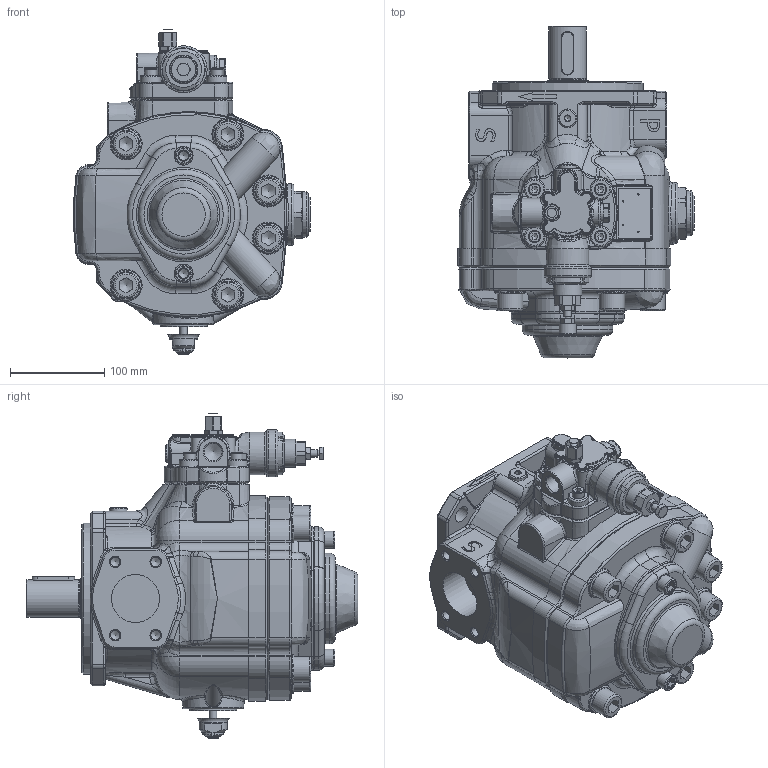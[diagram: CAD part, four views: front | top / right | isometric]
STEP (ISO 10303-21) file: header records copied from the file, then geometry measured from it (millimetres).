
FILE_DESCRIPTION(/* description */ (''),/* implementation_level */ '2;1');
FILE_NAME(/* name */ 'W:\Tecnico\Archivio\Dimensioni Pompe\3D Export\PHP\01 PHP 3 FHRMA PCS006.stp',/* time_stamp */ '2020-08-31T10:22:16+02:00',/* author */ ('marcop'),/* organization */ (''),/* preprocessor_version */ 'ST-DEVELOPER v17',/* originating_system */ 'Autodesk Inventor 2018',/* authorisation */ '');
FILE_SCHEMA (('AUTOMOTIVE_DESIGN { 1 0 10303 214 3 1 1 }'));
Products named in the file (1): PLP-PHP 3_Shrinkwrap_1
Bounding box: 251.18 x 352 x 345.1 mm (x, y, z)
Volume: 6981703 mm3; surface area: 575842.3 mm2
Topology: 2 solids, 2 shells, 2012 faces, 5009 edges, 3033 vertices
Faces by surface type: plane 546, cylinder 505, bspline 460, torus 261, cone 196, sphere 44
Full cylindrical faces by diameter (mm): 1.7 x4, 3 x3, 3.15 x1, 6.5 x1, 6.917 x1, 7 x1, 8 x2, 8.376 x4, 10.106 x4, 12 x3, 13 x4, 13.6 x2, 14 x1, 15.5 x1, 18 x6, 18.631 x1, 19 x4, 20 x4, 23 x1, 27 x6, 28 x1, 30 x2, 32 x7, 33.376 x1, 39.4 x1, 40 x3, 42.5 x1, 45 x4, 48 x1, 49.8 x1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
Entity records: 76686 total; most frequent: CARTESIAN_POINT 29538, ORIENTED_EDGE 9862, DIRECTION 8944, EDGE_CURVE 4931, AXIS2_PLACEMENT_3D 3662, VERTEX_POINT 3033, EDGE_LOOP 2132, CIRCLE 2062
